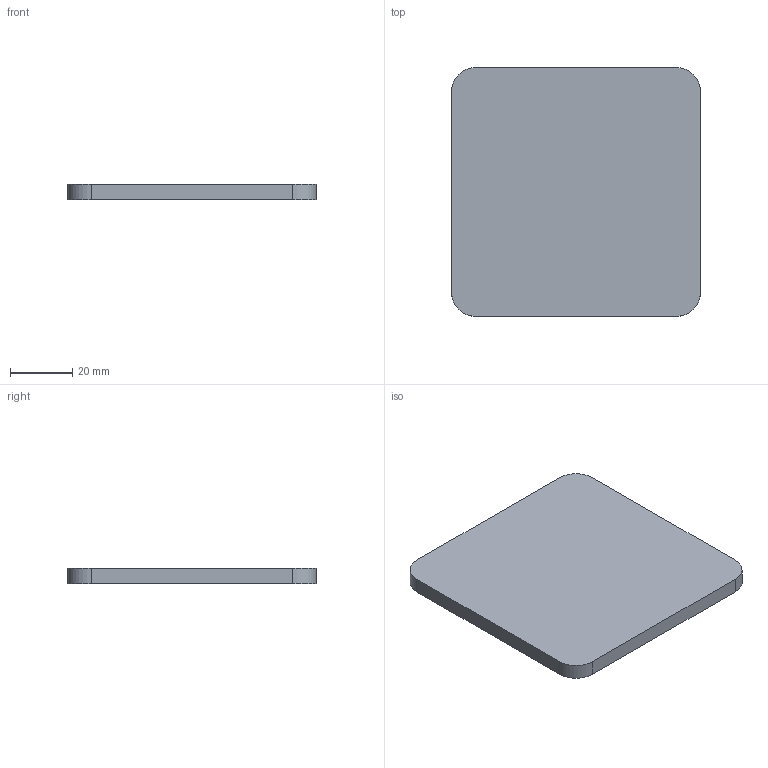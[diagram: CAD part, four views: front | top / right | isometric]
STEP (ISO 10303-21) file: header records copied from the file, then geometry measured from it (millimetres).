
FILE_DESCRIPTION(/* description */ (''),/* implementation_level */ '2;1');
FILE_NAME(/* name */ 'Pos131-Plaatwerk D= 5-S235JRG2-9st',/* time_stamp */ '2024-08-06T13:37:44+02:00',/* author */ (''),/* organization */ (''),/* preprocessor_version */ 'ST-DEVELOPER v16.5',/* originating_system */ 'HiCAD 2024 2901.2 Build 361',/* authorisation */ '');
FILE_SCHEMA (('AUTOMOTIVE_DESIGN { 1 0 10303 214 1 1 1 1 }'));
Length unit declared in the file: millimetre
Products named in the file (1): Pos131-Plaatwerk D= 5-S235JRG2-9st
Bounding box: 80 x 80 x 5 mm (x, y, z)
Volume: 31758.6 mm3; surface area: 14239 mm2
Topology: 1 solids, 1 shells, 10 faces, 24 edges, 16 vertices
Faces by surface type: plane 6, cylinder 4
Entity records: 554 total; most frequent: DIRECTION 52, CARTESIAN_POINT 50, PRESENTATION_STYLE_ASSIGNMENT 49, COLOUR_RGB 49, DRAUGHTING_PRE_DEFINED_CURVE_FONT 48, CURVE_STYLE 48, OVER_RIDING_STYLED_ITEM 48, ORIENTED_EDGE 48
